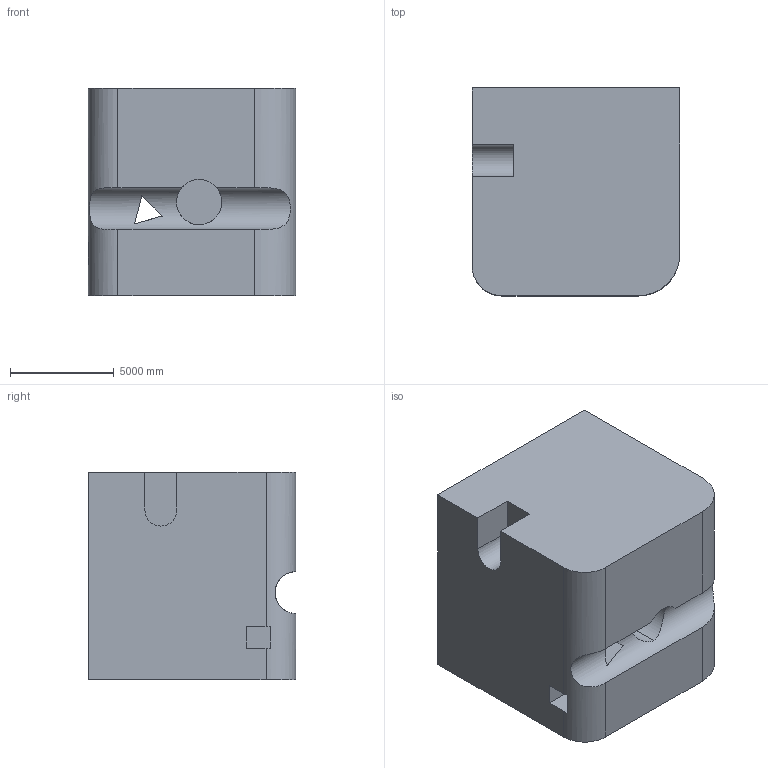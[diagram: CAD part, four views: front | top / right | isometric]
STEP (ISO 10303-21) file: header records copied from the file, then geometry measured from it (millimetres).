
FILE_DESCRIPTION (( 'STEP AP203' ), '1' );
FILE_NAME ('1827.STEP', '2022-08-19T13:16:45', ( 'user' ), ( '' ), 'SwSTEP 2.0', 'SolidWorks 2021', '' );
FILE_SCHEMA (( 'CONFIG_CONTROL_DESIGN' ));
Length unit declared in the file: centimetre
Products named in the file (1): 1827
Bounding box: 10000 x 10000 x 10000 mm (x, y, z)
Volume: 919284373324.8 mm3; surface area: 725210349.3 mm2
Topology: 1 solids, 1 shells, 35 faces, 93 edges, 62 vertices
Faces by surface type: plane 24, cylinder 11
Entity records: 1796 total; most frequent: CARTESIAN_POINT 834, ORIENTED_EDGE 186, DIRECTION 180, EDGE_CURVE 93, VECTOR 64, LINE 64, VERTEX_POINT 62, AXIS2_PLACEMENT_3D 58
